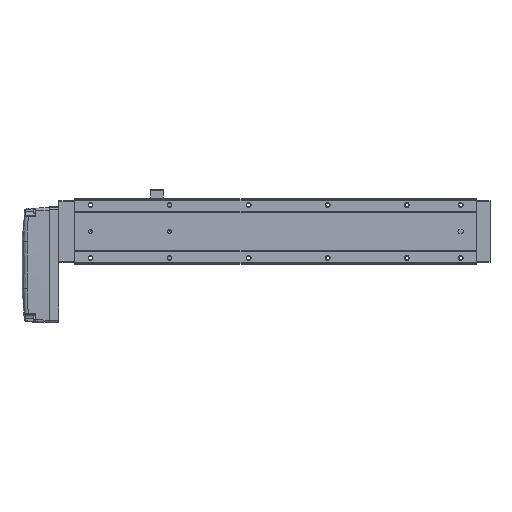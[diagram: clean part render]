
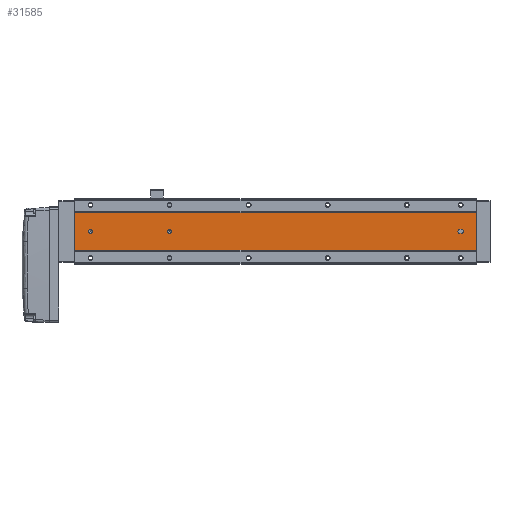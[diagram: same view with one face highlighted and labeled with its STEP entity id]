
A CAD part, front view. The second image highlights one B-rep face of the part: STEP entity #31585.
In plain terms, the highlighted planar face has unit normal (0, -1, 0).
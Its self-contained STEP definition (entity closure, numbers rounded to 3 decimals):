
#892 = CARTESIAN_POINT ( 'NONE',  ( 487., 1., 2.5 ) ) ;
#1046 = CARTESIAN_POINT ( 'NONE',  ( 489., 1., 2.5 ) ) ;
#1126 = CARTESIAN_POINT ( 'NONE',  ( 508., 1., 23.876 ) ) ;
#1278 = AXIS2_PLACEMENT_3D ( 'NONE', #12339, #4785, #17392 ) ;
#1293 = EDGE_CURVE ( 'NONE', #10999, #27920, #28371, .T. ) ;
#1344 = DIRECTION ( 'NONE',  ( -1., 0., 0. ) ) ;
#1515 = FACE_BOUND ( 'NONE', #28488, .T. ) ;
#1747 = CARTESIAN_POINT ( 'NONE',  ( 0., 1., -23.876 ) ) ;
#1984 = VERTEX_POINT ( 'NONE', #14657 ) ;
#3335 = AXIS2_PLACEMENT_3D ( 'NONE', #21656, #26711, #24675 ) ;
#4254 = CARTESIAN_POINT ( 'NONE',  ( 489., 1., 0. ) ) ;
#4532 = ORIENTED_EDGE ( 'NONE', *, *, #12851, .F. ) ;
#4585 = DIRECTION ( 'NONE',  ( 0., -1., 0. ) ) ;
#4785 = DIRECTION ( 'NONE',  ( 0., -1., 0. ) ) ;
#4793 = AXIS2_PLACEMENT_3D ( 'NONE', #13405, #29197, #23821 ) ;
#4826 = EDGE_LOOP ( 'NONE', ( #13101, #4532, #24322, #24246 ) ) ;
#5946 = VERTEX_POINT ( 'NONE', #31876 ) ;
#6276 = LINE ( 'NONE', #10389, #32053 ) ;
#6456 = AXIS2_PLACEMENT_3D ( 'NONE', #12823, #17709, #25773 ) ;
#6695 = CARTESIAN_POINT ( 'NONE',  ( 20., 1., 2.5 ) ) ;
#6975 = ORIENTED_EDGE ( 'NONE', *, *, #19893, .F. ) ;
#7290 = CARTESIAN_POINT ( 'NONE',  ( 508., 1., -23.876 ) ) ;
#8797 = EDGE_CURVE ( 'NONE', #12684, #5946, #26715, .T. ) ;
#9353 = FACE_BOUND ( 'NONE', #14817, .T. ) ;
#9775 = DIRECTION ( 'NONE',  ( 0., 0., -1. ) ) ;
#10172 = VERTEX_POINT ( 'NONE', #1046 ) ;
#10389 = CARTESIAN_POINT ( 'NONE',  ( 508., 1., -23.876 ) ) ;
#10436 = EDGE_CURVE ( 'NONE', #5946, #12302, #18641, .T. ) ;
#10759 = LINE ( 'NONE', #11082, #22346 ) ;
#10765 = VERTEX_POINT ( 'NONE', #12360 ) ;
#10834 = VECTOR ( 'NONE', #26339, 1000. ) ;
#10999 = VERTEX_POINT ( 'NONE', #1126 ) ;
#11082 = CARTESIAN_POINT ( 'NONE',  ( 508., 1., 2.5 ) ) ;
#11558 = PLANE ( 'NONE',  #3335 ) ;
#11761 = CIRCLE ( 'NONE', #4793, 2.5 ) ;
#12201 = AXIS2_PLACEMENT_3D ( 'NONE', #30834, #15689, #30498 ) ;
#12302 = VERTEX_POINT ( 'NONE', #24405 ) ;
#12339 = CARTESIAN_POINT ( 'NONE',  ( 120., 1., 0. ) ) ;
#12341 = ORIENTED_EDGE ( 'NONE', *, *, #8797, .F. ) ;
#12360 = CARTESIAN_POINT ( 'NONE',  ( 120., 1., 2.5 ) ) ;
#12684 = VERTEX_POINT ( 'NONE', #892 ) ;
#12823 = CARTESIAN_POINT ( 'NONE',  ( 120., 1., 0. ) ) ;
#12851 = EDGE_CURVE ( 'NONE', #24119, #1984, #27807, .T. ) ;
#12934 = CIRCLE ( 'NONE', #6456, 2.5 ) ;
#13101 = ORIENTED_EDGE ( 'NONE', *, *, #27292, .F. ) ;
#13189 = VERTEX_POINT ( 'NONE', #14651 ) ;
#13405 = CARTESIAN_POINT ( 'NONE',  ( 20., 1., 0. ) ) ;
#13530 = EDGE_CURVE ( 'NONE', #19780, #24357, #23866, .T. ) ;
#14076 = FACE_OUTER_BOUND ( 'NONE', #4826, .T. ) ;
#14434 = CARTESIAN_POINT ( 'NONE',  ( 20., 1., 0. ) ) ;
#14463 = CARTESIAN_POINT ( 'NONE',  ( 508., 1., -23.876 ) ) ;
#14651 = CARTESIAN_POINT ( 'NONE',  ( 120., 1., -2.5 ) ) ;
#14657 = CARTESIAN_POINT ( 'NONE',  ( 0., 1., -23.876 ) ) ;
#14817 = EDGE_LOOP ( 'NONE', ( #29849, #6975 ) ) ;
#15379 = ORIENTED_EDGE ( 'NONE', *, *, #30068, .F. ) ;
#15689 = DIRECTION ( 'NONE',  ( 0., -1., 0. ) ) ;
#15796 = EDGE_CURVE ( 'NONE', #10172, #12684, #10759, .T. ) ;
#16027 = EDGE_CURVE ( 'NONE', #24119, #10999, #6276, .T. ) ;
#16121 = ORIENTED_EDGE ( 'NONE', *, *, #20729, .F. ) ;
#16142 = EDGE_LOOP ( 'NONE', ( #16121, #24083 ) ) ;
#16375 = DIRECTION ( 'NONE',  ( 0., 0., 1. ) ) ;
#16449 = FACE_BOUND ( 'NONE', #16142, .T. ) ;
#17032 = VECTOR ( 'NONE', #25867, 1000. ) ;
#17392 = DIRECTION ( 'NONE',  ( 0., 0., -1. ) ) ;
#17614 = CIRCLE ( 'NONE', #29970, 2.5 ) ;
#17709 = DIRECTION ( 'NONE',  ( 0., -1., 0. ) ) ;
#18334 = CARTESIAN_POINT ( 'NONE',  ( 0., 1., 23.876 ) ) ;
#18641 = LINE ( 'NONE', #30738, #17032 ) ;
#19341 = ORIENTED_EDGE ( 'NONE', *, *, #15796, .F. ) ;
#19780 = VERTEX_POINT ( 'NONE', #21863 ) ;
#19893 = EDGE_CURVE ( 'NONE', #24357, #19780, #11761, .T. ) ;
#20092 = AXIS2_PLACEMENT_3D ( 'NONE', #14434, #22650, #32943 ) ;
#20729 = EDGE_CURVE ( 'NONE', #13189, #10765, #12934, .T. ) ;
#21147 = VECTOR ( 'NONE', #1344, 1000. ) ;
#21656 = CARTESIAN_POINT ( 'NONE',  ( 508., 1., -23.876 ) ) ;
#21863 = CARTESIAN_POINT ( 'NONE',  ( 20., 1., -2.5 ) ) ;
#22103 = VECTOR ( 'NONE', #24921, 1000. ) ;
#22346 = VECTOR ( 'NONE', #23701, 1000. ) ;
#22650 = DIRECTION ( 'NONE',  ( 0., -1., 0. ) ) ;
#23701 = DIRECTION ( 'NONE',  ( -1., 0., 0. ) ) ;
#23821 = DIRECTION ( 'NONE',  ( 0., 0., -1. ) ) ;
#23866 = CIRCLE ( 'NONE', #20092, 2.5 ) ;
#24083 = ORIENTED_EDGE ( 'NONE', *, *, #33174, .F. ) ;
#24119 = VERTEX_POINT ( 'NONE', #14463 ) ;
#24246 = ORIENTED_EDGE ( 'NONE', *, *, #1293, .T. ) ;
#24322 = ORIENTED_EDGE ( 'NONE', *, *, #16027, .T. ) ;
#24357 = VERTEX_POINT ( 'NONE', #6695 ) ;
#24405 = CARTESIAN_POINT ( 'NONE',  ( 489., 1., -2.5 ) ) ;
#24594 = LINE ( 'NONE', #1747, #22103 ) ;
#24675 = DIRECTION ( 'NONE',  ( 0., 0., -1. ) ) ;
#24921 = DIRECTION ( 'NONE',  ( 0., 0., 1. ) ) ;
#25773 = DIRECTION ( 'NONE',  ( 0., 0., -1. ) ) ;
#25867 = DIRECTION ( 'NONE',  ( 1., 0., 0. ) ) ;
#26339 = DIRECTION ( 'NONE',  ( -1., 0., 0. ) ) ;
#26711 = DIRECTION ( 'NONE',  ( 0., -1., 0. ) ) ;
#26715 = CIRCLE ( 'NONE', #12201, 2.5 ) ;
#27292 = EDGE_CURVE ( 'NONE', #1984, #27920, #24594, .T. ) ;
#27807 = LINE ( 'NONE', #7290, #21147 ) ;
#27920 = VERTEX_POINT ( 'NONE', #18334 ) ;
#28101 = CIRCLE ( 'NONE', #1278, 2.5 ) ;
#28371 = LINE ( 'NONE', #28856, #10834 ) ;
#28488 = EDGE_LOOP ( 'NONE', ( #29413, #12341, #19341, #15379 ) ) ;
#28856 = CARTESIAN_POINT ( 'NONE',  ( 508., 1., 23.876 ) ) ;
#29197 = DIRECTION ( 'NONE',  ( 0., -1., 0. ) ) ;
#29413 = ORIENTED_EDGE ( 'NONE', *, *, #10436, .F. ) ;
#29849 = ORIENTED_EDGE ( 'NONE', *, *, #13530, .F. ) ;
#29970 = AXIS2_PLACEMENT_3D ( 'NONE', #4254, #4585, #9775 ) ;
#30068 = EDGE_CURVE ( 'NONE', #12302, #10172, #17614, .T. ) ;
#30498 = DIRECTION ( 'NONE',  ( 0., 0., -1. ) ) ;
#30738 = CARTESIAN_POINT ( 'NONE',  ( 508., 1., -2.5 ) ) ;
#30834 = CARTESIAN_POINT ( 'NONE',  ( 487., 1., 0. ) ) ;
#31585 = ADVANCED_FACE ( 'NONE', ( #1515, #9353, #16449, #14076 ), #11558, .T. ) ;
#31876 = CARTESIAN_POINT ( 'NONE',  ( 487., 1., -2.5 ) ) ;
#32053 = VECTOR ( 'NONE', #16375, 1000. ) ;
#32943 = DIRECTION ( 'NONE',  ( 0., 0., -1. ) ) ;
#33174 = EDGE_CURVE ( 'NONE', #10765, #13189, #28101, .T. ) ;
